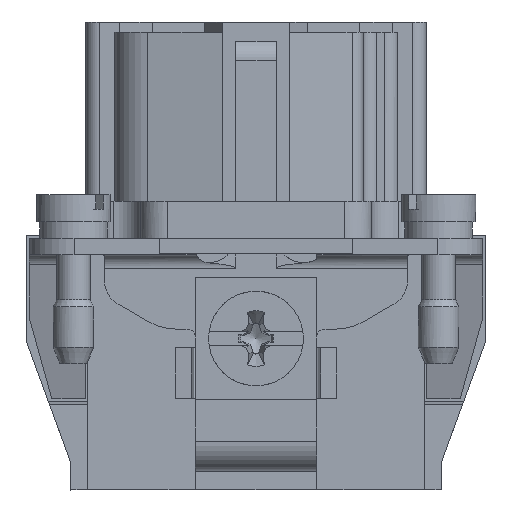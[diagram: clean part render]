
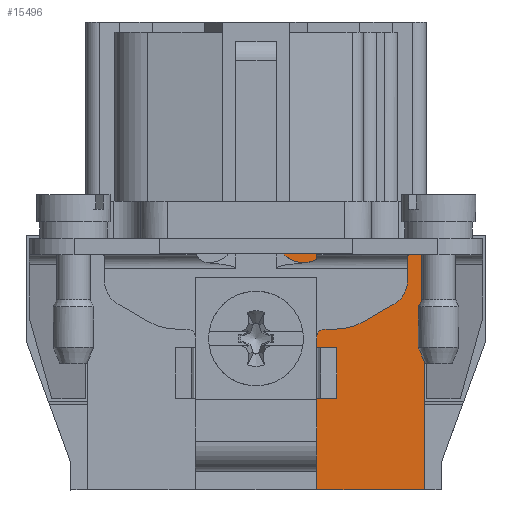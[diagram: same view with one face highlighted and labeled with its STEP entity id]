
A CAD part, left-side view. The second image highlights one B-rep face of the part: STEP entity #15496.
In plain terms, the highlighted planar face has unit normal (-1, 0, 0).
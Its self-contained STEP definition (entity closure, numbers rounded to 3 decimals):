
#13090=PLANE('',#42344);
#14030=FACE_OUTER_BOUND('',#23210,.T.);
#15496=ADVANCED_FACE('',(#14030),#13090,.T.);
#17527=LINE('',#53895,#20139);
#17528=LINE('',#53898,#20140);
#17529=LINE('',#53900,#20141);
#17530=LINE('',#53902,#20142);
#17531=LINE('',#53904,#20143);
#17532=LINE('',#53906,#20144);
#17533=LINE('',#53908,#20145);
#17534=LINE('',#53910,#20146);
#17535=LINE('',#53914,#20147);
#17536=LINE('',#53916,#20148);
#17537=LINE('',#53918,#20149);
#17538=LINE('',#53922,#20150);
#17539=LINE('',#53926,#20151);
#17540=LINE('',#53930,#20152);
#17541=LINE('',#53932,#20153);
#17542=LINE('',#53934,#20154);
#20139=VECTOR('',#45031,1.);
#20140=VECTOR('',#45032,1.);
#20141=VECTOR('',#45033,1.);
#20142=VECTOR('',#45034,1.);
#20143=VECTOR('',#45035,1.);
#20144=VECTOR('',#45036,1.);
#20145=VECTOR('',#45037,1.);
#20146=VECTOR('',#45038,1.);
#20147=VECTOR('',#45041,1.);
#20148=VECTOR('',#45042,1.);
#20149=VECTOR('',#45043,1.);
#20150=VECTOR('',#45046,1.);
#20151=VECTOR('',#45049,1.);
#20152=VECTOR('',#45052,1.);
#20153=VECTOR('',#45053,1.);
#20154=VECTOR('',#45054,1.);
#23210=EDGE_LOOP('',(#25586,#25587,#25588,#25589,#25590,#25591,#25592,#25593,
#25594,#25595,#25596,#25597,#25598,#25599,#25600,#25601,#25602,#25603,#25604,
#25605));
#25586=ORIENTED_EDGE('',*,*,#37387,.F.);
#25587=ORIENTED_EDGE('',*,*,#37388,.F.);
#25588=ORIENTED_EDGE('',*,*,#37389,.F.);
#25589=ORIENTED_EDGE('',*,*,#37390,.T.);
#25590=ORIENTED_EDGE('',*,*,#37391,.F.);
#25591=ORIENTED_EDGE('',*,*,#37392,.F.);
#25592=ORIENTED_EDGE('',*,*,#37393,.F.);
#25593=ORIENTED_EDGE('',*,*,#37394,.T.);
#25594=ORIENTED_EDGE('',*,*,#37395,.T.);
#25595=ORIENTED_EDGE('',*,*,#37396,.T.);
#25596=ORIENTED_EDGE('',*,*,#37397,.F.);
#25597=ORIENTED_EDGE('',*,*,#37398,.F.);
#25598=ORIENTED_EDGE('',*,*,#37399,.F.);
#25599=ORIENTED_EDGE('',*,*,#37400,.F.);
#25600=ORIENTED_EDGE('',*,*,#37401,.F.);
#25601=ORIENTED_EDGE('',*,*,#37402,.F.);
#25602=ORIENTED_EDGE('',*,*,#37403,.T.);
#25603=ORIENTED_EDGE('',*,*,#37404,.F.);
#25604=ORIENTED_EDGE('',*,*,#37405,.F.);
#25605=ORIENTED_EDGE('',*,*,#37406,.F.);
#34399=VERTEX_POINT('',#53896);
#34400=VERTEX_POINT('',#53897);
#34401=VERTEX_POINT('',#53899);
#34402=VERTEX_POINT('',#53901);
#34403=VERTEX_POINT('',#53903);
#34404=VERTEX_POINT('',#53905);
#34405=VERTEX_POINT('',#53907);
#34406=VERTEX_POINT('',#53909);
#34407=VERTEX_POINT('',#53911);
#34408=VERTEX_POINT('',#53913);
#34409=VERTEX_POINT('',#53915);
#34410=VERTEX_POINT('',#53917);
#34411=VERTEX_POINT('',#53919);
#34412=VERTEX_POINT('',#53921);
#34413=VERTEX_POINT('',#53923);
#34414=VERTEX_POINT('',#53925);
#34415=VERTEX_POINT('',#53927);
#34416=VERTEX_POINT('',#53929);
#34417=VERTEX_POINT('',#53931);
#34418=VERTEX_POINT('',#53933);
#37387=EDGE_CURVE('',#34399,#34400,#17527,.T.);
#37388=EDGE_CURVE('',#34401,#34399,#17528,.T.);
#37389=EDGE_CURVE('',#34402,#34401,#17529,.T.);
#37390=EDGE_CURVE('',#34402,#34403,#17530,.T.);
#37391=EDGE_CURVE('',#34404,#34403,#17531,.T.);
#37392=EDGE_CURVE('',#34405,#34404,#17532,.T.);
#37393=EDGE_CURVE('',#34406,#34405,#17533,.T.);
#37394=EDGE_CURVE('',#34406,#34407,#17534,.T.);
#37395=EDGE_CURVE('',#34407,#34408,#41400,.T.);
#37396=EDGE_CURVE('',#34408,#34409,#17535,.T.);
#37397=EDGE_CURVE('',#34410,#34409,#17536,.T.);
#37398=EDGE_CURVE('',#34411,#34410,#17537,.T.);
#37399=EDGE_CURVE('',#34412,#34411,#41401,.T.);
#37400=EDGE_CURVE('',#34413,#34412,#17538,.T.);
#37401=EDGE_CURVE('',#34414,#34413,#41402,.T.);
#37402=EDGE_CURVE('',#34415,#34414,#17539,.T.);
#37403=EDGE_CURVE('',#34415,#34416,#41403,.T.);
#37404=EDGE_CURVE('',#34417,#34416,#17540,.T.);
#37405=EDGE_CURVE('',#34418,#34417,#17541,.T.);
#37406=EDGE_CURVE('',#34400,#34418,#17542,.T.);
#41400=CIRCLE('',#42340,2.);
#41401=CIRCLE('',#42341,2.);
#41402=CIRCLE('',#42342,4.);
#41403=CIRCLE('',#42343,0.6);
#42340=AXIS2_PLACEMENT_3D('',#53912,#45039,#45040);
#42341=AXIS2_PLACEMENT_3D('',#53920,#45044,#45045);
#42342=AXIS2_PLACEMENT_3D('',#53924,#45047,#45048);
#42343=AXIS2_PLACEMENT_3D('',#53928,#45050,#45051);
#42344=AXIS2_PLACEMENT_3D('',#53935,#45055,#45056);
#45031=DIRECTION('',(0.,-1.,0.));
#45032=DIRECTION('',(0.,0.,1.));
#45033=DIRECTION('',(0.,0.,1.));
#45034=DIRECTION('',(0.,-1.,0.));
#45035=DIRECTION('',(0.,0.,-1.));
#45036=DIRECTION('',(0.,-1.,0.));
#45037=DIRECTION('',(0.,0.,1.));
#45038=DIRECTION('',(0.,1.,0.));
#45039=DIRECTION('',(-1.,0.,0.));
#45040=DIRECTION('',(0.,0.,1.));
#45041=DIRECTION('',(0.,0.,1.));
#45042=DIRECTION('',(0.,1.,0.));
#45043=DIRECTION('',(0.,0.,1.));
#45044=DIRECTION('',(-1.,0.,0.));
#45045=DIRECTION('',(0.,0.,1.));
#45046=DIRECTION('',(0.,-0.866,0.5));
#45047=DIRECTION('',(-1.,0.,0.));
#45048=DIRECTION('',(0.,0.,1.));
#45049=DIRECTION('',(0.,-1.,0.));
#45050=DIRECTION('',(-1.,0.,0.));
#45051=DIRECTION('',(0.,0.,1.));
#45052=DIRECTION('',(0.,0.,1.));
#45053=DIRECTION('',(0.,1.,0.));
#45054=DIRECTION('',(0.,0.,1.));
#45055=DIRECTION('',(-1.,0.,0.));
#45056=DIRECTION('',(0.,0.,1.));
#53895=CARTESIAN_POINT('',(-21.375,-12.45,-10.6));
#53896=CARTESIAN_POINT('',(-21.375,-4.5,-10.6));
#53897=CARTESIAN_POINT('',(-21.375,-5.216,-10.6));
#53898=CARTESIAN_POINT('',(-21.375,-4.5,-2.));
#53899=CARTESIAN_POINT('',(-21.375,-4.5,-15.859));
#53900=CARTESIAN_POINT('',(-21.375,-4.5,-2.));
#53901=CARTESIAN_POINT('',(-21.375,-4.5,-17.4));
#53902=CARTESIAN_POINT('',(-21.375,-12.45,-17.4));
#53903=CARTESIAN_POINT('',(-21.375,-12.45,-17.4));
#53904=CARTESIAN_POINT('',(-21.375,-12.45,-17.4));
#53905=CARTESIAN_POINT('',(-21.375,-12.45,1.2));
#53906=CARTESIAN_POINT('',(-21.375,0.,1.2));
#53907=CARTESIAN_POINT('',(-21.375,-4.575,1.2));
#53908=CARTESIAN_POINT('',(-21.375,-4.575,0.05));
#53909=CARTESIAN_POINT('',(-21.375,-4.575,0.05));
#53910=CARTESIAN_POINT('',(-21.375,0.,0.05));
#53911=CARTESIAN_POINT('',(-21.375,-2.024,0.05));
#53912=CARTESIAN_POINT('',(-21.375,-3.5,1.4));
#53913=CARTESIAN_POINT('',(-21.375,-4.5,-0.332));
#53914=CARTESIAN_POINT('',(-21.375,-4.5,-17.4));
#53915=CARTESIAN_POINT('',(-21.375,-4.5,-0.031));
#53916=CARTESIAN_POINT('',(-21.375,-17.788,-0.031));
#53917=CARTESIAN_POINT('',(-21.375,-11.2,-0.031));
#53918=CARTESIAN_POINT('',(-21.375,-11.2,-17.4));
#53919=CARTESIAN_POINT('',(-21.375,-11.2,-1.92));
#53920=CARTESIAN_POINT('',(-21.375,-9.2,-1.92));
#53921=CARTESIAN_POINT('',(-21.375,-10.2,-3.652));
#53922=CARTESIAN_POINT('',(-21.375,-5.935,-6.115));
#53923=CARTESIAN_POINT('',(-21.375,-7.928,-4.964));
#53924=CARTESIAN_POINT('',(-21.375,-5.928,-1.5));
#53925=CARTESIAN_POINT('',(-21.375,-5.928,-5.5));
#53926=CARTESIAN_POINT('',(-21.375,-12.45,-5.5));
#53927=CARTESIAN_POINT('',(-21.375,-5.1,-5.5));
#53928=CARTESIAN_POINT('',(-21.375,-5.1,-6.1));
#53929=CARTESIAN_POINT('',(-21.375,-4.5,-6.1));
#53930=CARTESIAN_POINT('',(-21.375,-4.5,-17.4));
#53931=CARTESIAN_POINT('',(-21.375,-4.5,-6.9));
#53932=CARTESIAN_POINT('',(-21.375,-12.45,-6.9));
#53933=CARTESIAN_POINT('',(-21.375,-5.216,-6.9));
#53934=CARTESIAN_POINT('',(-21.375,-5.216,-8.75));
#53935=CARTESIAN_POINT('',(-21.375,-12.45,-17.4));
